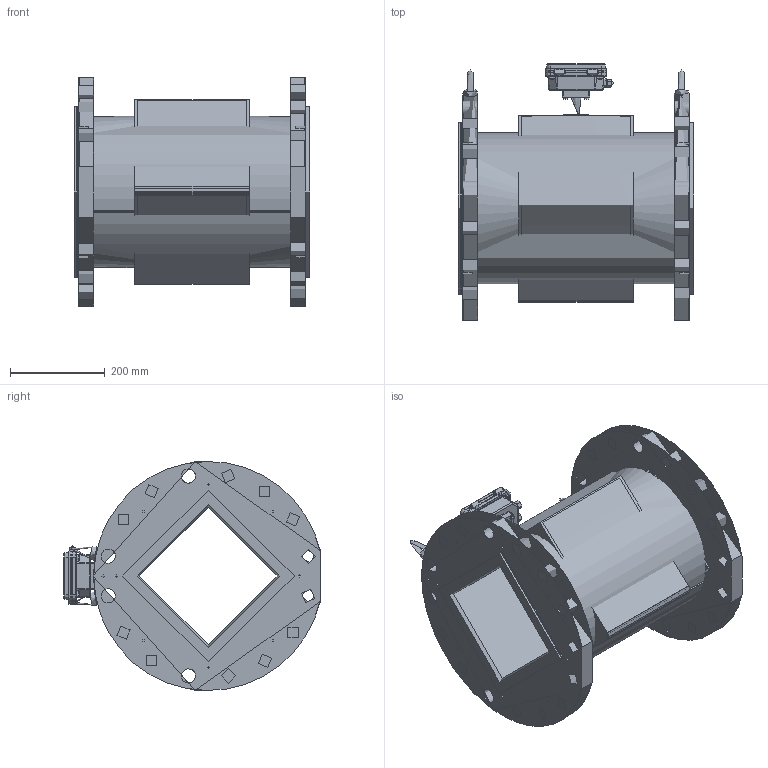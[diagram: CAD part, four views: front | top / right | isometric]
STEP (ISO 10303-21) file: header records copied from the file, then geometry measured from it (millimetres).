
FILE_DESCRIPTION(('STEP AP214'), '1');
FILE_NAME('Âçëåò ÝÐ ÏÐÎÔÈ DN300 Ôëàíåö', '', ('UNSPECIFIED'), ('UNSPECIFIED'), 'ASCON STEP Converter 1.6', 'ASCON Math Kernel', '');
FILE_SCHEMA(('AUTOMOTIVE_DESIGN { 1 0 10303 214 3 1 1}'));
Length unit declared in the file: millimetre
Products named in the file (1): 婽挭.407212.031-031.14
Bounding box: 496 x 541.6 x 482.94 mm (x, y, z)
Topology: 18 solids, 23 shells, 1225 faces, 2933 edges, 1782 vertices
Faces by surface type: plane 435, cylinder 418, cone 187, torus 134, bspline 51
Full cylindrical faces by diameter (mm): 0.8 x2, 2 x2, 2.8 x2, 3 x4, 3.242 x16, 3.3 x2, 4 x10, 4.134 x6, 4.2 x1, 4.5 x2, 4.917 x16, 5 x4, 5.3 x3, 5.5 x4, 6 x4, 6.3 x2, 7 x6, 7.5 x2, 8 x4, 10 x4, 10.106 x1, 12 x10, 12.5 x2, 16.5 x2, 18 x1, 19 x1, 20 x1, 21 x1, 25 x1, 30 x33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
Entity records: 79984 total; most frequent: CARTESIAN_POINT 37560, DIRECTION 5930, ORIENTED_EDGE 5104, EDGE_CURVE 2552, AXIS2_PLACEMENT_3D 2414, VERTEX_POINT 1733, EDGE_LOOP 1727, FACE_BOUND 1241
